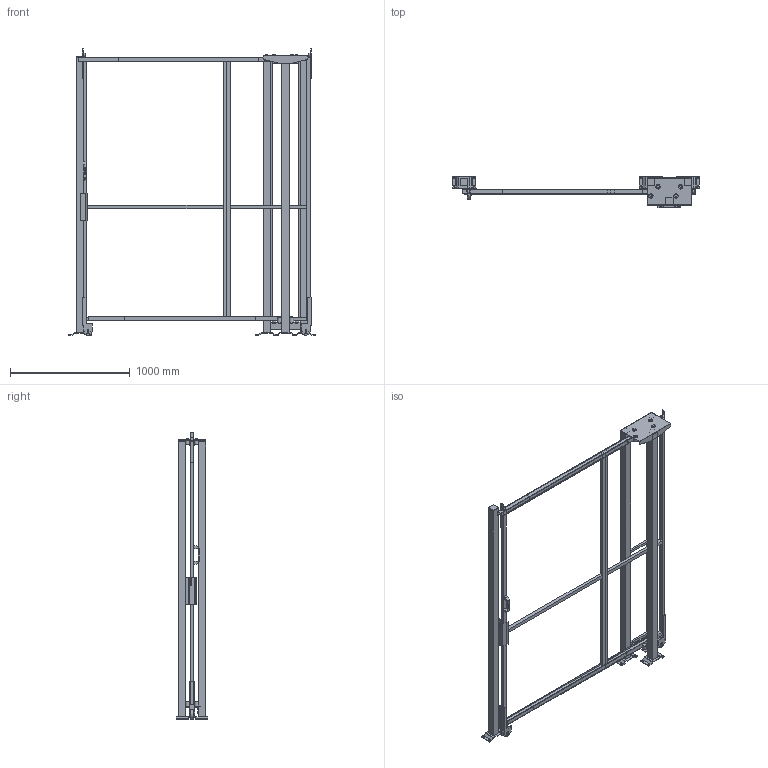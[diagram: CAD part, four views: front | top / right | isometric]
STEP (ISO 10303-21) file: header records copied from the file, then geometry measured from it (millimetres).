
FILE_DESCRIPTION(/* description */ (''),/* implementation_level */ '2;1');
FILE_NAME(/* name */ 'C:\SafeGuarding\ELABORATI\KLADKA_2025-03-20-08-21-45.stp',/* time_stamp */ '2025-03-20T08:21:47+01:00',/* author */ ('admin'),/* organization */ (''),/* preprocessor_version */ 'ST-DEVELOPER v18.1',/* originating_system */ 'AutoCAD Mechanical',/* authorisation */ '');
FILE_SCHEMA (('AUTOMOTIVE_DESIGN { 1 0 10303 214 3 1 1 }'));
Length unit declared in the file: millimetre
Products named in the file (5): Product; R_VFPA.REPE30.07002200; R_VFPA.REPE30.12002200; R_VFPA.REPE20.02502200; P_VFMA.V360SDU.2320
Assembly tree (7 placements, depth 2):
  Product
    R_VFPA.REPE30.07002200
    R_VFPA.REPE30.12002200
    R_VFPA.REPE20.02502200
    P_VFMA.V360SDU.2320  x4
Bounding box: 2062.03 x 264.11 x 2390.02 mm (x, y, z)
Volume: 51472054.2 mm3; surface area: 6715603.9 mm2
Topology: 60 solids, 71 shells, 549 faces, 1687 edges, 1685 vertices
Faces by surface type: plane 497, cylinder 50, sphere 2
Full cylindrical faces by diameter (mm): 9 x4, 11 x16, 13 x4, 30 x6, 36 x8, 80 x2
Entity records: 15803 total; most frequent: CARTESIAN_POINT 3383, DIRECTION 2399, ORIENTED_EDGE 2178, LINE 1169, VECTOR 1169, EDGE_CURVE 1138, VERTEX_POINT 798, AXIS2_PLACEMENT_3D 615
